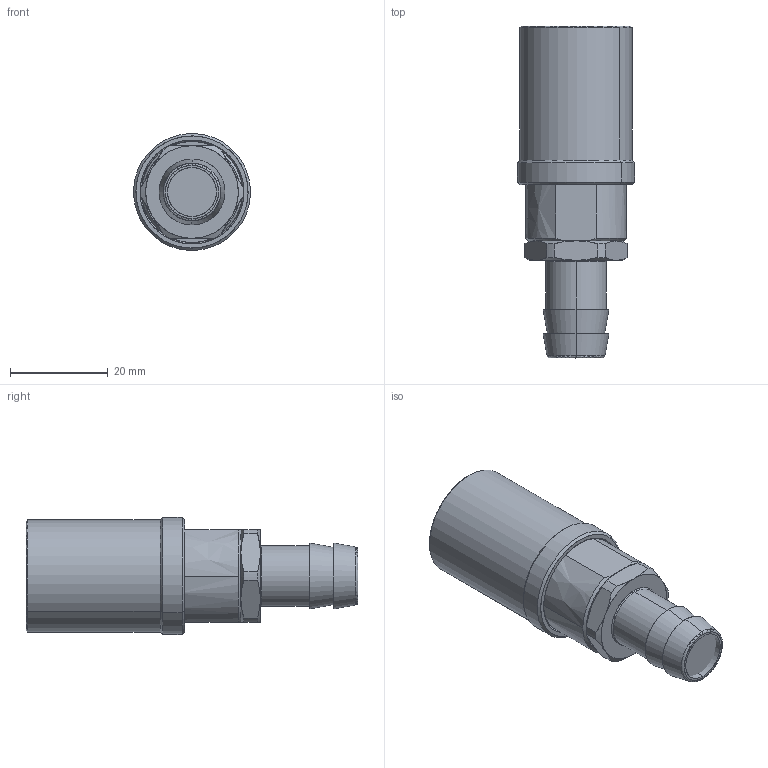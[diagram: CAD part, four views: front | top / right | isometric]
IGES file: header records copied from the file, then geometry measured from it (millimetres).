
Start section: SolidWorks IGES file using analytic representation for surfaces
Global section: file name: K:\Disegni Esecutivi\SERIE 400-500\ASSIEMI\445\445_iges\0044500002A.IGS; native system: SolidWorks 2009; preprocessor: SolidWorks 2009; author: cad05; date: 100304.155034; units: millimetre
Bounding box: 23.99 x 68.05 x 23.99 mm (x, y, z)
Surface area: 17431.6 mm2 (no closed solid volume)
Topology: 0 solids, 0 shells, 208 faces, 3109 edges, 3085 vertices
Faces by surface type: revolution 153, bspline 55
